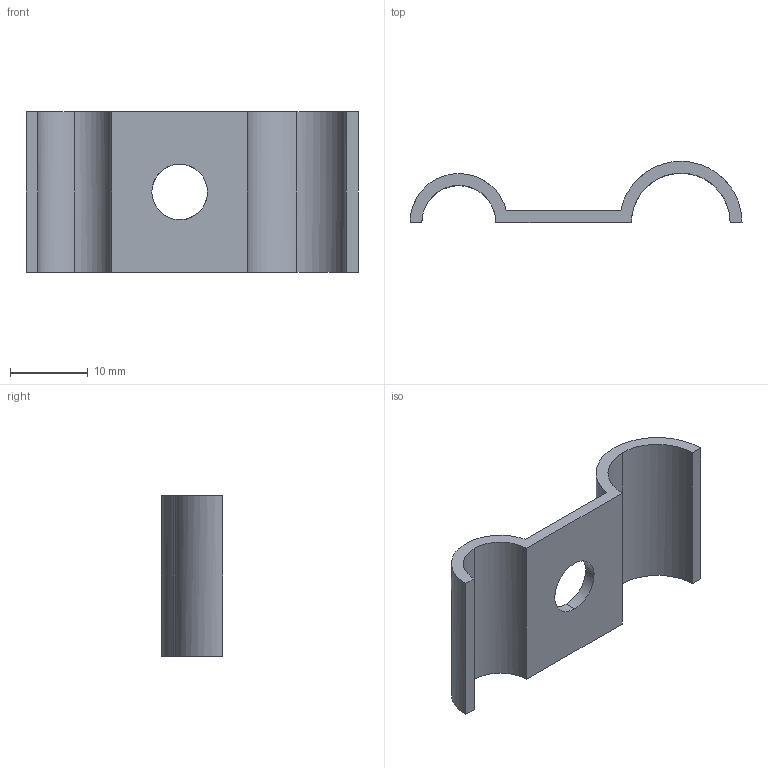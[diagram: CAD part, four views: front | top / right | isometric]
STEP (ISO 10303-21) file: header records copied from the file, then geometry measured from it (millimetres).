
FILE_DESCRIPTION(('TurboCAD Mac Pro'),'Build 980');
FILE_NAME('P6810.stp',' ',(''),(''),'ACIS Interop','IMSI','TurboCAD Mac Pro BY IMSI, INCORPORATED');
FILE_SCHEMA(('automotive_design'));
Length unit declared in the file: inch
Products named in the file (1): 1
Bounding box: 42.71 x 7.87 x 20.64 mm (x, y, z)
Volume: 1642.6 mm3; surface area: 2420.8 mm2
Topology: 1 solids, 1 shells, 18 faces, 48 edges, 32 vertices
Faces by surface type: bspline 12, plane 6
Entity records: 796 total; most frequent: CARTESIAN_POINT 255, ORIENTED_EDGE 96, EDGE_CURVE 48, DIRECTION 38, VERTEX_POINT 32, B_SPLINE_CURVE_WITH_KNOTS 24, LINE 24, VECTOR 24
